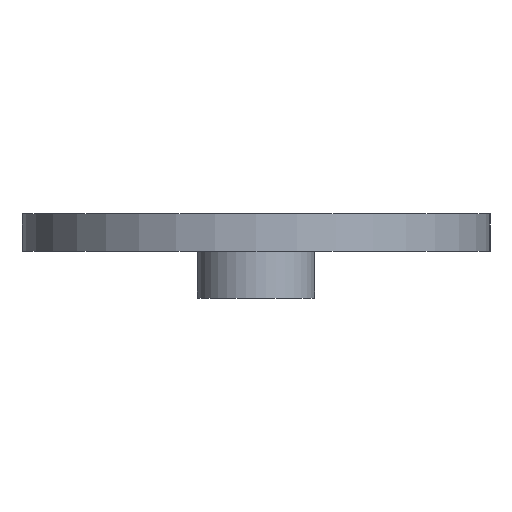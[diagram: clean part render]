
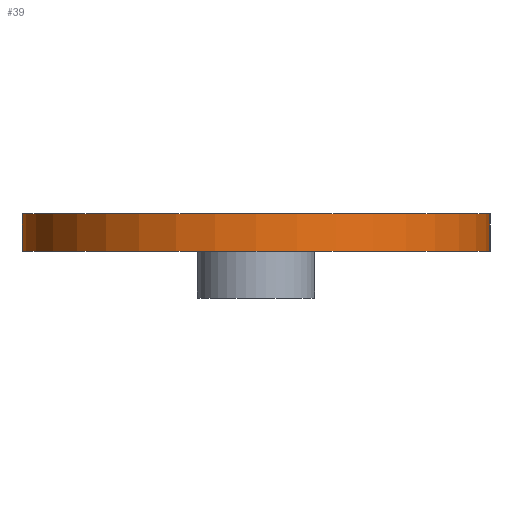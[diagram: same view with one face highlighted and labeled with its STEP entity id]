
A CAD part, left-side view. The second image highlights one B-rep face of the part: STEP entity #39.
In plain terms, the highlighted cylindrical face has radius 10 mm (diameter 20 mm), a full revolution.
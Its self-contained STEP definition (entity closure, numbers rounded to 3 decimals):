
#39 = ADVANCED_FACE('',(#40),#54,.T.);
#40 = FACE_BOUND('',#41,.F.);
#41 = EDGE_LOOP('',(#42,#72,#99,#100));
#42 = ORIENTED_EDGE('',*,*,#43,.T.);
#43 = EDGE_CURVE('',#44,#46,#48,.T.);
#44 = VERTEX_POINT('',#45);
#45 = CARTESIAN_POINT('',(-12.,-127.,26.1));
#46 = VERTEX_POINT('',#47);
#47 = CARTESIAN_POINT('',(-12.,-127.,27.7));
#48 = SEAM_CURVE('',#49,(#53,#65),.PCURVE_S1.);
#49 = LINE('',#50,#51);
#50 = CARTESIAN_POINT('',(-12.,-127.,26.1));
#51 = VECTOR('',#52,1.);
#52 = DIRECTION('',(0.,0.,1.));
#53 = PCURVE('',#54,#59);
#54 = CYLINDRICAL_SURFACE('',#55,10.);
#55 = AXIS2_PLACEMENT_3D('',#56,#57,#58);
#56 = CARTESIAN_POINT('',(-22.,-127.,26.1));
#57 = DIRECTION('',(-0.,-0.,-1.));
#58 = DIRECTION('',(1.,0.,0.));
#59 = DEFINITIONAL_REPRESENTATION('',(#60),#64);
#60 = LINE('',#61,#62);
#61 = CARTESIAN_POINT('',(-0.,0.));
#62 = VECTOR('',#63,1.);
#63 = DIRECTION('',(-0.,-1.));
#64 = ( GEOMETRIC_REPRESENTATION_CONTEXT(2) 
PARAMETRIC_REPRESENTATION_CONTEXT() REPRESENTATION_CONTEXT('2D SPACE',''
  ) );
#65 = PCURVE('',#54,#66);
#66 = DEFINITIONAL_REPRESENTATION('',(#67),#71);
#67 = LINE('',#68,#69);
#68 = CARTESIAN_POINT('',(-6.283,0.));
#69 = VECTOR('',#70,1.);
#70 = DIRECTION('',(-0.,-1.));
#71 = ( GEOMETRIC_REPRESENTATION_CONTEXT(2) 
PARAMETRIC_REPRESENTATION_CONTEXT() REPRESENTATION_CONTEXT('2D SPACE',''
  ) );
#72 = ORIENTED_EDGE('',*,*,#73,.T.);
#73 = EDGE_CURVE('',#46,#46,#74,.T.);
#74 = SURFACE_CURVE('',#75,(#80,#87),.PCURVE_S1.);
#75 = CIRCLE('',#76,10.);
#76 = AXIS2_PLACEMENT_3D('',#77,#78,#79);
#77 = CARTESIAN_POINT('',(-22.,-127.,27.7));
#78 = DIRECTION('',(0.,0.,1.));
#79 = DIRECTION('',(1.,0.,0.));
#80 = PCURVE('',#54,#81);
#81 = DEFINITIONAL_REPRESENTATION('',(#82),#86);
#82 = LINE('',#83,#84);
#83 = CARTESIAN_POINT('',(-0.,-1.6));
#84 = VECTOR('',#85,1.);
#85 = DIRECTION('',(-1.,0.));
#86 = ( GEOMETRIC_REPRESENTATION_CONTEXT(2) 
PARAMETRIC_REPRESENTATION_CONTEXT() REPRESENTATION_CONTEXT('2D SPACE',''
  ) );
#87 = PCURVE('',#88,#93);
#88 = PLANE('',#89);
#89 = AXIS2_PLACEMENT_3D('',#90,#91,#92);
#90 = CARTESIAN_POINT('',(-22.,-127.,27.7));
#91 = DIRECTION('',(0.,0.,1.));
#92 = DIRECTION('',(1.,0.,-0.));
#93 = DEFINITIONAL_REPRESENTATION('',(#94),#98);
#94 = CIRCLE('',#95,10.);
#95 = AXIS2_PLACEMENT_2D('',#96,#97);
#96 = CARTESIAN_POINT('',(0.,0.));
#97 = DIRECTION('',(1.,0.));
#98 = ( GEOMETRIC_REPRESENTATION_CONTEXT(2) 
PARAMETRIC_REPRESENTATION_CONTEXT() REPRESENTATION_CONTEXT('2D SPACE',''
  ) );
#99 = ORIENTED_EDGE('',*,*,#43,.F.);
#100 = ORIENTED_EDGE('',*,*,#101,.F.);
#101 = EDGE_CURVE('',#44,#44,#102,.T.);
#102 = SURFACE_CURVE('',#103,(#108,#115),.PCURVE_S1.);
#103 = CIRCLE('',#104,10.);
#104 = AXIS2_PLACEMENT_3D('',#105,#106,#107);
#105 = CARTESIAN_POINT('',(-22.,-127.,26.1));
#106 = DIRECTION('',(0.,0.,1.));
#107 = DIRECTION('',(1.,0.,0.));
#108 = PCURVE('',#54,#109);
#109 = DEFINITIONAL_REPRESENTATION('',(#110),#114);
#110 = LINE('',#111,#112);
#111 = CARTESIAN_POINT('',(-0.,0.));
#112 = VECTOR('',#113,1.);
#113 = DIRECTION('',(-1.,0.));
#114 = ( GEOMETRIC_REPRESENTATION_CONTEXT(2) 
PARAMETRIC_REPRESENTATION_CONTEXT() REPRESENTATION_CONTEXT('2D SPACE',''
  ) );
#115 = PCURVE('',#116,#121);
#116 = PLANE('',#117);
#117 = AXIS2_PLACEMENT_3D('',#118,#119,#120);
#118 = CARTESIAN_POINT('',(-22.,-127.,26.1));
#119 = DIRECTION('',(0.,0.,1.));
#120 = DIRECTION('',(1.,0.,-0.));
#121 = DEFINITIONAL_REPRESENTATION('',(#122),#126);
#122 = CIRCLE('',#123,10.);
#123 = AXIS2_PLACEMENT_2D('',#124,#125);
#124 = CARTESIAN_POINT('',(0.,0.));
#125 = DIRECTION('',(1.,0.));
#126 = ( GEOMETRIC_REPRESENTATION_CONTEXT(2) 
PARAMETRIC_REPRESENTATION_CONTEXT() REPRESENTATION_CONTEXT('2D SPACE',''
  ) );
